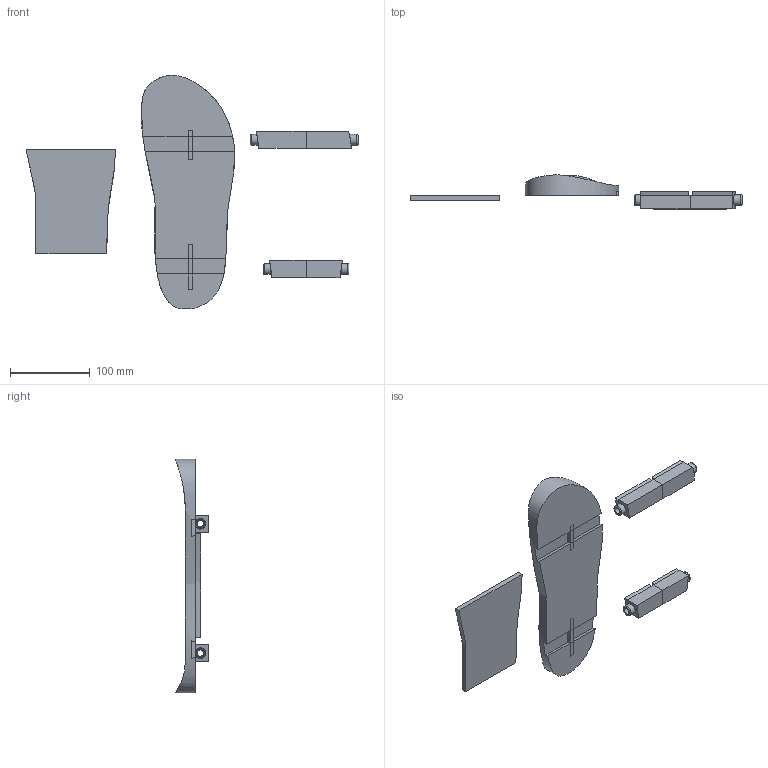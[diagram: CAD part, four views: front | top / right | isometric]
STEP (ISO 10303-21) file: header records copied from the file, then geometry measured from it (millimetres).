
FILE_DESCRIPTION(/* description */ (''),/* implementation_level */ '2;1');
FILE_NAME(/* name */ 'C:\Users\garre\3D Objects\croc skate assembly.stp',/* time_stamp */ '2021-09-03T20:41:39-04:00',/* author */ ('garre'),/* organization */ (''),/* preprocessor_version */ 'ST-DEVELOPER v18.1',/* originating_system */ 'Autodesk Inventor 2022',/* authorisation */ '');
FILE_SCHEMA (('AUTOMOTIVE_DESIGN { 1 0 10303 214 3 1 1 }'));
Length unit declared in the file: inch
Products named in the file (4): croc skate assembly; croc skate foot plate; croc skate axle holders; croc skate reinforcement plate
Assembly tree (3 placements, depth 2):
  croc skate assembly
    croc skate foot plate
    croc skate axle holders
    croc skate reinforcement plate
Bounding box: 415.07 x 42.32 x 292.17 mm (x, y, z)
Volume: 469217.8 mm3; surface area: 124317.6 mm2
Topology: 8 solids, 8 shells, 93 faces, 223 edges, 146 vertices
Faces by surface type: plane 68, bspline 11, cylinder 10, torus 4
Full cylindrical faces by diameter (mm): 8.128 x4, 13.208 x4
Entity records: 3692 total; most frequent: CARTESIAN_POINT 1451, ORIENTED_EDGE 446, DIRECTION 367, EDGE_CURVE 223, VERTEX_POINT 146, LINE 127, VECTOR 127, AXIS2_PLACEMENT_3D 120
